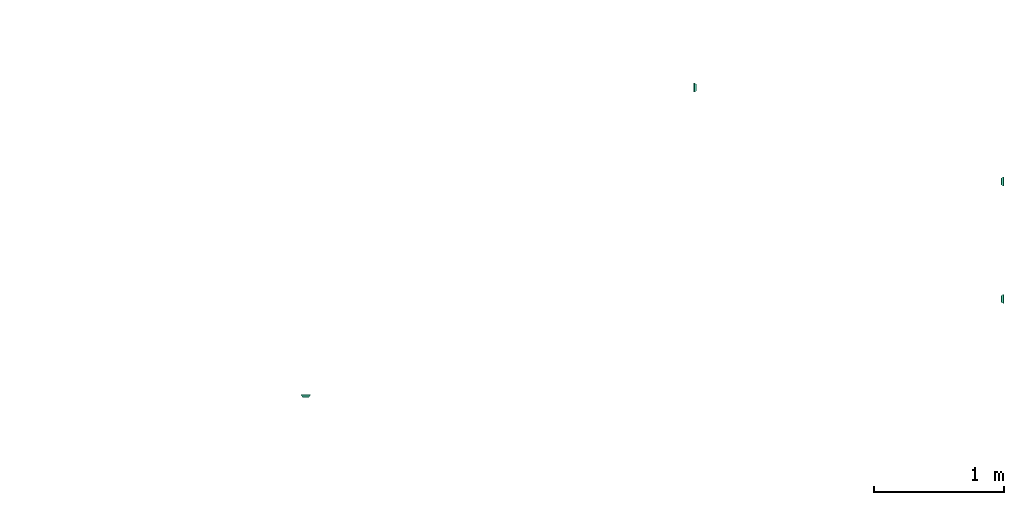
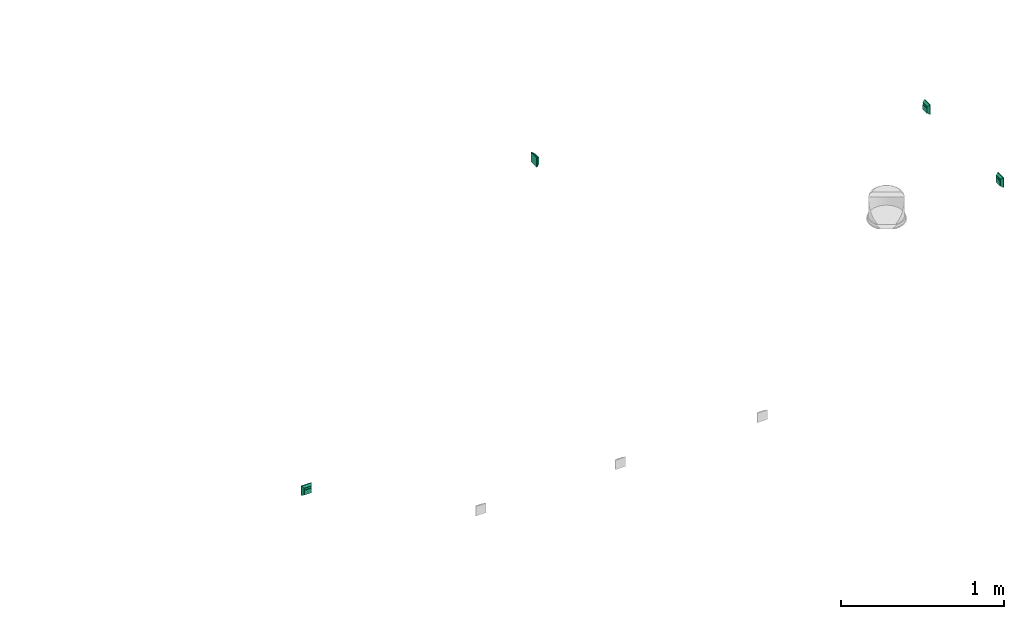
# One storey, part 3 of 5: 4 flow terminals.
"""IFC2X3 building model written with IfcOpenShell, lengths in millimetres."""

import ifcopenshell
import ifcopenshell.guid

model = None  # the IFC model being written
_history = None  # IfcOwnerHistory: only IFC2X3 demands one
_inside = {}  # id of a spatial element -> (the spatial element, [elements in it])
_under = {}  # id of a project, library or spatial element -> (it, [spatial elements below it])
_declared = {}  # id of a project -> (the project, [libraries it declares])
_typed = {}  # id of a type object -> (the type object, [elements of that type])
_made_of = {}  # id of a material, layer set ... -> (it, [elements and type objects made of it])


def new_model(schema):
    """Start an empty IFC model of exactly this schema.

    Asked for "IFC4X3", IfcOpenShell would pick the latest addendum, in which some entities
    have other attributes; the version numbers below select the first issue.
    IFC2X3 requires an IfcOwnerHistory on every rooted entity: one is made here for all.
    """
    global model, _history
    if schema == "IFC4X3":
        model = ifcopenshell.file(schema_version=(4, 3, 0, 0))
    else:
        model = ifcopenshell.file(schema=schema)
    _inside.clear()
    _under.clear()
    _declared.clear()
    _typed.clear()
    _made_of.clear()
    _history = None
    if model.schema == "IFC2X3":
        org = make("IfcOrganization", Name="unknown")
        user = make(
            "IfcPersonAndOrganization",
            ThePerson=make("IfcPerson", FamilyName="unknown"),
            TheOrganization=org,
        )
        app = make(
            "IfcApplication",
            ApplicationDeveloper=org,
            Version="unknown",
            ApplicationFullName="unknown",
            ApplicationIdentifier="unknown",
        )
        _history = make(
            "IfcOwnerHistory",
            OwningUser=user,
            OwningApplication=app,
            ChangeAction="ADDED",
            CreationDate=0,
        )
    return model


def make(cls, **values):
    """One entity of the class cls with the attributes given. An attribute that is None is left unset."""
    return model.create_entity(
        cls, **{name: value for name, value in values.items() if value is not None}
    )


def entity(cls, *values):
    """Any entity or typed value of the class cls, its attributes in the order of the schema. None: left unset."""
    e = model.create_entity(cls)
    for i, value in enumerate(values):
        if value is not None:
            e[i] = value
    return e


def rooted(cls, **values):
    """An entity with a GlobalId (a new one), such as an element, a storey or a relation."""
    return make(cls, GlobalId=ifcopenshell.guid.new(), OwnerHistory=_history, **values)


def si_unit(unit_type, name, prefix=None):
    """IfcSIUnit, for example si_unit("LENGTHUNIT", "METRE", prefix="MILLI")."""
    return make("IfcSIUnit", UnitType=unit_type, Prefix=prefix, Name=name)


def converted_unit(unit_type, name, factor, base, dimensions=None, offset=None):
    """IfcConversionBasedUnit, such as the inch: factor (a typed value) times the base unit."""
    return make(
        "IfcConversionBasedUnit"
        if offset is None
        else "IfcConversionBasedUnitWithOffset",
        ConversionOffset=offset,
        Dimensions=None
        if dimensions is None
        else entity("IfcDimensionalExponents", *dimensions),
        UnitType=unit_type,
        Name=name,
        ConversionFactor=make(
            "IfcMeasureWithUnit", ValueComponent=factor, UnitComponent=base
        ),
    )


def derived_unit(unit_type, elements):
    """IfcDerivedUnit: a product of units, each with its exponent."""
    return make(
        "IfcDerivedUnit",
        Elements=[
            make("IfcDerivedUnitElement", Unit=unit, Exponent=power)
            for unit, power in elements
        ],
        UnitType=unit_type,
    )


def assignment(units):
    """IfcUnitAssignment: the units of a project."""
    return None if units is None else make("IfcUnitAssignment", Units=units)


def point(xyz):
    """IfcCartesianPoint."""
    return None if xyz is None else make("IfcCartesianPoint", Coordinates=xyz)


def direction(xyz):
    """IfcDirection."""
    return None if xyz is None else make("IfcDirection", DirectionRatios=xyz)


def frame(location, z_axis=None, x_axis=None):
    """IfcAxis2Placement3D, a coordinate frame: its origin and axes. An axis left out is left unset."""
    return make(
        "IfcAxis2Placement3D",
        Location=point(location),
        Axis=direction(z_axis),
        RefDirection=direction(x_axis),
    )


def origin_with_axes():
    """The frame at (0, 0, 0) with the z axis (0, 0, 1) and the x axis (1, 0, 0) written out."""
    return frame((0.0, 0.0, 0.0), z_axis=(0.0, 0.0, 1.0), x_axis=(1.0, 0.0, 0.0))


def place(relative_to, where):
    """IfcLocalPlacement: puts the frame where relative to a parent placement (None: the world)."""
    return make(
        "IfcLocalPlacement", PlacementRelTo=relative_to, RelativePlacement=where
    )


def context(
    kind, dimensions, precision=None, world=None, true_north=None, identifier=None
):
    """IfcGeometricRepresentationContext, for example the 3D "Model" context."""
    return make(
        "IfcGeometricRepresentationContext",
        ContextIdentifier=identifier,
        ContextType=kind,
        CoordinateSpaceDimension=dimensions,
        Precision=precision,
        WorldCoordinateSystem=world,
        TrueNorth=true_north,
    )


def subcontext(parent, identifier, kind, view, scale=None):
    """IfcGeometricRepresentationSubContext, for example "Body" below "Model"."""
    return make(
        "IfcGeometricRepresentationSubContext",
        ContextIdentifier=identifier,
        ContextType=kind,
        ParentContext=parent,
        TargetScale=scale,
        TargetView=view,
    )


def project(units=None, contexts=None):
    """IfcProject with its units and contexts."""
    return rooted(
        "IfcProject",
        Name="project",
        RepresentationContexts=contexts,
        UnitsInContext=assignment(units),
    )


def spatial(cls, under=None, at=None, **own):
    """A site, building, storey or space (cls), placed at a placement, below another one or the project."""
    s = rooted(cls, ObjectPlacement=at, **own)
    if under is not None:
        _under.setdefault(under.id(), (under, []))[1].append(s)
    return s


def faces_of(points, faces, orient=None, outer=None):
    """IfcFace entities. A face is a list of loops; a loop is a list of indices into points, from 0.

    orient and outer hold one flag for each loop. By default every Orientation is true, the
    first loop of a face is its IfcFaceOuterBound and the others are IfcFaceBound.
    """
    made = []
    for i, loops in enumerate(faces):
        bounds = []
        for j, loop in enumerate(loops):
            is_outer = j == 0 if outer is None else outer[i][j]
            bounds.append(
                make(
                    "IfcFaceOuterBound" if is_outer else "IfcFaceBound",
                    Bound=make("IfcPolyLoop", Polygon=[points[k] for k in loop]),
                    Orientation=True if orient is None else orient[i][j],
                )
            )
        made.append(make("IfcFace", Bounds=bounds))
    return made


def open_shell(faces, orient=None, outer=None):
    """The faces of one IfcOpenShell. surface_model builds it on its shared points."""
    return ("IfcOpenShell", faces, orient, outer)


def surface_model(cls, points, shells):
    """IfcFaceBasedSurfaceModel or IfcShellBasedSurfaceModel (cls): surfaces that need not close."""
    shared = [point(p) for p in points]
    made = [make(c, CfsFaces=faces_of(shared, fs, o, b)) for c, fs, o, b in shells]
    if cls == "IfcFaceBasedSurfaceModel":
        return make(cls, FbsmFaces=made)
    return make(cls, SbsmBoundary=made)


def shape(context_of_items, identifier, shape_type, items):
    """IfcShapeRepresentation: the items that make up one representation, for example the "Body"."""
    return make(
        "IfcShapeRepresentation",
        ContextOfItems=context_of_items,
        RepresentationIdentifier=identifier,
        RepresentationType=shape_type,
        Items=items,
    )


def source(mapping_origin, context_of_items, identifier, shape_type, items):
    """IfcRepresentationMap: a shape defined once, which mapped items show again and again."""
    return make(
        "IfcRepresentationMap",
        MappingOrigin=mapping_origin,
        MappedRepresentation=shape(context_of_items, identifier, shape_type, items),
    )


def transform(
    local_origin,
    x_axis=None,
    y_axis=None,
    z_axis=None,
    scale=None,
    scale2=None,
    scale3=None,
    uniform=True,
):
    """IfcCartesianTransformationOperator3D, or its non-uniform kind. x_axis, y_axis, z_axis: its Axis1, 2, 3."""
    if uniform:
        return make(
            "IfcCartesianTransformationOperator3D",
            Axis1=direction(x_axis),
            Axis2=direction(y_axis),
            LocalOrigin=point(local_origin),
            Scale=scale,
            Axis3=direction(z_axis),
        )
    return make(
        "IfcCartesianTransformationOperator3DnonUniform",
        Axis1=direction(x_axis),
        Axis2=direction(y_axis),
        LocalOrigin=point(local_origin),
        Scale=scale,
        Axis3=direction(z_axis),
        Scale2=scale2,
        Scale3=scale3,
    )


def mapped(mapping_source, mapping_target):
    """IfcMappedItem: shows the shape of a source again, moved by a transform."""
    return make(
        "IfcMappedItem", MappingSource=mapping_source, MappingTarget=mapping_target
    )


def made_of(thing, what):
    """Note that an element or type object is made of a material, layer set ...; save() writes the relation."""
    if what is not None:
        _made_of.setdefault(what.id(), (what, []))[1].append(thing)
    return thing


def type_object(cls, material=None, **own):
    """A type object (cls), such as IfcWallType, which elements share."""
    return made_of(rooted(cls, **own), material)


def element(
    cls,
    number,
    at=None,
    inside=None,
    cuts=None,
    type_object=None,
    material=None,
    context=None,
    identifier="Body",
    shape_type=None,
    held_by="IfcProductDefinitionShape",
    body=None,
    shapes=None,
    **own,
):
    """One element of the class cls, such as IfcWall. Its Tag is "e" and its number.

    at: its placement. inside: the storey or other place that contains it. cuts: it is an
    opening in that element (IfcRelVoidsElement). A single representation is given by context,
    identifier, shape_type and body (its items); several are given by shapes. held_by: the class
    of the entity that holds the representations. save() writes the other relations.
    """
    e = rooted(cls, Tag="e%d" % number, ObjectPlacement=at, **own)
    if body is not None:
        shapes = [shape(context, identifier, shape_type, body)]
    if shapes is not None:
        e.Representation = make(held_by, Representations=shapes)
    if inside is not None:
        _inside.setdefault(inside.id(), (inside, []))[1].append(e)
    if cuts is not None:
        rooted(
            "IfcRelVoidsElement", RelatingBuildingElement=cuts, RelatedOpeningElement=e
        )
    if type_object is not None:
        _typed.setdefault(type_object.id(), (type_object, []))[1].append(e)
    return made_of(e, material)


def aggregate(whole, parts):
    """IfcRelAggregates: a whole, such as a stair, and the parts it consists of."""
    return rooted("IfcRelAggregates", RelatingObject=whole, RelatedObjects=parts)


def save(model, path):
    """Write the relations noted so far, then the file.

    IfcRelAggregates (storeys below a building ...), IfcRelContainedInSpatialStructure (elements
    in a storey), IfcRelDefinesByType, IfcRelAssociatesMaterial and IfcRelDeclares: one each for
    every whole, place, type object, material and project.
    """
    for whole, parts in _under.values():
        aggregate(whole, parts)
    for where, things in _inside.values():
        rooted(
            "IfcRelContainedInSpatialStructure",
            RelatedElements=things,
            RelatingStructure=where,
        )
    for kind, things in _typed.values():
        rooted("IfcRelDefinesByType", RelatedObjects=things, RelatingType=kind)
    for what, things in _made_of.values():
        rooted("IfcRelAssociatesMaterial", RelatedObjects=things, RelatingMaterial=what)
    for by, libraries in _declared.values():
        rooted("IfcRelDeclares", RelatingContext=by, RelatedDefinitions=libraries)
    model.write(path)


model = new_model("IFC2X3")

# Units and contexts
model_context = context("Model", 3, precision=0.01, world=frame((0.0, 4.29681676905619e-09, 0.0)), true_north=direction((4.01073788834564e-13, 1.0)))
plan_context = context("Plan", 3, precision=0.01, world=frame((0.0, 4.29681676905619e-09, 0.0)), true_north=direction((4.01073788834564e-13, 1.0)))
body_context = subcontext(model_context, "Body", "Model", "MODEL_VIEW")
ifc_project = project(units=[converted_unit("PLANEANGLEUNIT", "DEGREE", entity("IfcPositiveLengthMeasure", 0.0174532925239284), si_unit("PLANEANGLEUNIT", "RADIAN"), dimensions=[0, 0, 0, 0, 0, 0, 0]), si_unit("AREAUNIT", "SQUARE_METRE"), si_unit("LENGTHUNIT", "METRE", prefix="MILLI"), si_unit("MASSUNIT", "GRAM", prefix="KILO"), si_unit("POWERUNIT", "WATT"), si_unit("PRESSUREUNIT", "PASCAL"), si_unit("FORCEUNIT", "NEWTON", prefix="KILO"), si_unit("ELECTRICVOLTAGEUNIT", "VOLT"), si_unit("ELECTRICCURRENTUNIT", "AMPERE"), si_unit("THERMODYNAMICTEMPERATUREUNIT", "DEGREE_CELSIUS"), si_unit("TIMEUNIT", "SECOND"), si_unit("VOLUMEUNIT", "CUBIC_METRE"), derived_unit("LINEARVELOCITYUNIT", [(si_unit("LENGTHUNIT", "METRE"), 1), (si_unit("TIMEUNIT", "SECOND"), -1)]), derived_unit("VOLUMETRICFLOWRATEUNIT", [(si_unit("VOLUMEUNIT", "CUBIC_METRE"), 1), (si_unit("TIMEUNIT", "SECOND"), -1)]), derived_unit("THERMALTRANSMITTANCEUNIT", [(si_unit("POWERUNIT", "WATT"), 1), (si_unit("THERMODYNAMICTEMPERATUREUNIT", "KELVIN"), -1), (si_unit("AREAUNIT", "SQUARE_METRE"), -1)]), derived_unit("SOUNDPRESSUREUNIT", [(si_unit("PRESSUREUNIT", "PASCAL"), 1)])], contexts=[model_context, plan_context])

# Site, building, storey
site_placement = place(None, frame((0.0, -4.29681676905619e-09, 0.0), z_axis=(0.0, 0.0, 1.0), x_axis=(1.0, 0.0, 0.0)))
site = spatial("IfcSite", under=ifc_project, at=site_placement, Name="ENGM", CompositionType="ELEMENT")
building_placement = place(site_placement, frame((0.0, 4.29681676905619e-09, 0.0), z_axis=(0.0, 0.0, 1.0), x_axis=(1.0, 0.0, 0.0)))
building = spatial("IfcBuilding", under=site, at=building_placement, Name="TS", CompositionType="ELEMENT")
storey_placement = place(building_placement, frame((0.0, 0.0, 210900.0), z_axis=(0.0, 0.0, 1.0), x_axis=(1.0, 0.0, 0.0)))
storey = spatial("IfcBuildingStorey", under=building, at=storey_placement, Name="Nivå F", CompositionType="ELEMENT", Elevation=210900.0)

# Flow terminals
outlet_type_1 = type_object("IfcOutletType", Name="Datauttak dobbel Vegg - IKT", PredefinedType="COMMUNICATIONSOUTLET")
shared_shape_1 = source(origin_with_axes(), body_context, "Body", "SurfaceModel", [
    surface_model("IfcShellBasedSurfaceModel", [(35.5, 5.05547, 35.5832), (25.5, 20.05547, 25.5832), (-35.5, 5.05547, 35.5832), (-25.5, 20.05547, 25.5832), (-35.5, 4.94453, 35.41679), (-25.5, 19.94453, 25.41679), (25.5, 19.94453, 25.41679), (35.5, 4.94453, 35.41679), (35.5, 4.94453, -35.41679), (25.5, 19.94453, -25.41679), (-35.5, 4.94453, -35.41679), (-25.5, 19.94453, -25.41679), (-35.5, 5.05547, -35.5832), (-25.5, 20.05547, -25.5832), (25.5, 20.05547, -25.5832), (35.5, 5.05547, -35.5832), (-25.5832, 20.05547, -25.5), (-35.5832, 5.05547, -35.5), (-35.5832, 5.05547, 35.5), (-25.5832, 20.05547, 25.5), (-25.41679, 19.94453, 25.5), (-35.41679, 4.94453, 35.5), (-25.41679, 19.94453, -25.5), (-35.41679, 4.94453, -35.5), (25.41679, 19.94453, -25.5), (35.41679, 4.94453, -35.5), (35.41679, 4.94453, 35.5), (25.41679, 19.94453, 25.5), (25.5832, 20.05547, 25.5), (35.5832, 5.05547, 35.5), (25.5832, 20.05547, -25.5), (35.5832, 5.05547, -35.5), (35.4, 5.0, -35.5), (35.4, 0.0, -35.5), (35.4, 0.0, 35.5), (35.4, 5.0, 35.5), (35.6, 5.0, 35.5), (35.6, 0.0, 35.5), (35.6, 0.0, -35.5), (35.6, 5.0, -35.5), (-35.5, 0.0, -35.6), (-35.5, 5.0, -35.6), (35.5, 5.0, -35.6), (35.5, 0.0, -35.6), (35.5, 0.0, -35.4), (35.5, 5.0, -35.4), (-35.5, 5.0, -35.4), (-35.5, 0.0, -35.4), (-35.6, 5.0, -35.5), (-35.6, 0.0, -35.5), (-35.6, 0.0, 35.5), (-35.6, 5.0, 35.5), (-35.4, 5.0, 35.5), (-35.4, 0.0, 35.5), (-35.4, 0.0, -35.5), (-35.4, 5.0, -35.5), (-35.5, -0.1, -35.5), (35.5, -0.1, -35.5), (35.5, -0.1, 35.5), (-35.5, -0.1, 35.5), (-35.5, 0.1, 35.5), (35.5, 0.1, 35.5), (35.5, 0.1, -35.5), (-35.5, 0.1, -35.5), (-35.5, 0.0, 35.4), (-35.5, 5.0, 35.4), (35.5, 5.0, 35.4), (35.5, 0.0, 35.4), (35.5, 0.0, 35.6), (35.5, 5.0, 35.6), (-35.5, 5.0, 35.6), (-35.5, 0.0, 35.6), (-25.5, 19.9, -25.5), (25.5, 19.9, -25.5), (25.5, 19.9, 25.5), (-25.5, 19.9, 25.5), (-25.5, 20.1, 25.5), (25.5, 20.1, 25.5), (25.5, 20.1, -25.5), (-25.5, 20.1, -25.5), (-25.5, 22.0, 25.5), (-25.5, 20.0, 25.5), (25.5, 20.0, 25.5), (25.5, 22.0, 25.5), (25.5, 22.0, 20.5), (25.5, 20.0, 20.5), (-25.5, 20.0, 20.5), (-25.5, 22.0, 20.5), (-25.5, 22.0, 10.5), (-25.5, 20.0, 10.5), (25.5, 20.0, 10.5), (25.5, 22.0, 10.5), (25.5, 22.0, -25.5), (25.5, 20.0, -25.5), (-25.5, 20.0, -25.5), (-25.5, 22.0, -25.5), (-17.5, 21.91, -6.5), (-2.5, 21.91, -6.5), (-17.5, 21.91, 8.5), (-2.5, 21.91, 8.5), (-17.5, 22.11, 8.5), (-2.5, 22.11, 8.5), (-17.5, 22.11, -6.5), (-2.5, 22.11, -6.5), (2.5, 21.91, -6.5), (17.5, 21.91, -6.5), (17.5, 21.91, 8.5), (2.5, 21.91, 8.5), (2.5, 22.11, 8.5), (17.5, 22.11, 8.5), (2.5, 22.11, -6.5), (17.5, 22.11, -6.5)], [open_shell([[[0, 1, 2]], [[3, 2, 1]], [[4, 5, 6]], [[6, 7, 4]], [[3, 1, 6]], [[6, 5, 3]], [[2, 3, 4]], [[5, 4, 3]], [[0, 2, 7]], [[4, 7, 2]], [[1, 0, 6]], [[7, 6, 0]], [[8, 9, 10]], [[11, 10, 9]], [[12, 13, 14]], [[14, 15, 12]], [[11, 9, 14]], [[14, 13, 11]], [[10, 11, 12]], [[13, 12, 11]], [[8, 10, 12]], [[12, 15, 8]], [[9, 8, 14]], [[15, 14, 8]], [[16, 17, 18]], [[18, 19, 16]], [[20, 21, 22]], [[23, 22, 21]], [[18, 17, 23]], [[23, 21, 18]], [[19, 18, 20]], [[21, 20, 18]], [[16, 19, 20]], [[20, 22, 16]], [[17, 16, 22]], [[22, 23, 17]], [[24, 25, 26]], [[26, 27, 24]], [[28, 29, 30]], [[31, 30, 29]], [[26, 25, 31]], [[31, 29, 26]], [[27, 26, 28]], [[29, 28, 26]], [[24, 27, 28]], [[28, 30, 24]], [[25, 24, 30]], [[30, 31, 25]], [[32, 33, 34]], [[34, 35, 32]], [[36, 37, 38]], [[38, 39, 36]], [[34, 33, 38]], [[38, 37, 34]], [[35, 34, 37]], [[37, 36, 35]], [[32, 35, 36]], [[36, 39, 32]], [[33, 32, 39]], [[39, 38, 33]], [[40, 41, 42]], [[42, 43, 40]], [[44, 45, 46]], [[46, 47, 44]], [[42, 41, 46]], [[46, 45, 42]], [[43, 42, 45]], [[45, 44, 43]], [[40, 43, 44]], [[44, 47, 40]], [[41, 40, 47]], [[47, 46, 41]], [[48, 49, 50]], [[50, 51, 48]], [[52, 53, 54]], [[54, 55, 52]], [[50, 49, 54]], [[54, 53, 50]], [[51, 50, 53]], [[53, 52, 51]], [[48, 51, 52]], [[52, 55, 48]], [[49, 48, 55]], [[55, 54, 49]], [[56, 57, 58]], [[58, 59, 56]], [[60, 61, 62]], [[62, 63, 60]], [[58, 57, 62]], [[62, 61, 58]], [[59, 58, 61]], [[61, 60, 59]], [[56, 59, 60]], [[60, 63, 56]], [[57, 56, 63]], [[63, 62, 57]], [[64, 65, 66]], [[66, 67, 64]], [[68, 69, 70]], [[70, 71, 68]], [[66, 65, 70]], [[70, 69, 66]], [[67, 66, 69]], [[69, 68, 67]], [[64, 67, 68]], [[68, 71, 64]], [[65, 64, 71]], [[71, 70, 65]], [[72, 73, 74]], [[74, 75, 72]], [[76, 77, 78]], [[78, 79, 76]], [[74, 73, 78]], [[78, 77, 74]], [[75, 74, 77]], [[77, 76, 75]], [[72, 75, 76]], [[76, 79, 72]], [[73, 72, 79]], [[79, 78, 73]], [[80, 81, 82]], [[82, 83, 80]], [[84, 85, 86]], [[86, 87, 84]], [[82, 81, 86]], [[86, 85, 82]], [[83, 82, 85]], [[85, 84, 83]], [[80, 83, 84]], [[84, 87, 80]], [[81, 80, 87]], [[87, 86, 81]], [[88, 89, 90]], [[90, 91, 88]], [[92, 93, 94]], [[94, 95, 92]], [[90, 89, 94]], [[94, 93, 90]], [[91, 90, 93]], [[93, 92, 91]], [[88, 91, 92]], [[92, 95, 88]], [[89, 88, 95]], [[95, 94, 89]], [[96, 97, 98]], [[99, 98, 97]], [[100, 101, 102]], [[103, 102, 101]], [[99, 97, 103]], [[103, 101, 99]], [[98, 99, 101]], [[101, 100, 98]], [[96, 98, 100]], [[100, 102, 96]], [[97, 96, 102]], [[102, 103, 97]], [[104, 105, 106]], [[106, 107, 104]], [[108, 109, 110]], [[111, 110, 109]], [[106, 105, 111]], [[111, 109, 106]], [[107, 106, 109]], [[109, 108, 107]], [[104, 107, 108]], [[108, 110, 104]], [[105, 104, 110]], [[110, 111, 105]]])]),
])
for number, where, z_axis, x_axis, name in (
    (1, (536115.5, 445940.00039, 800.0), (0.0, 0.0, 1.0), (0.0, 1.0, 0.0), "Datauttak dobbel Vegg - IKT"),
    (2, (536115.5, 445040.00009, 800.0), (0.0, 0.0, 1.0), (0.0, 1.0, 0.0), "Datauttak dobbel Vegg - IKT"),
    (3, (530764.79879, 444307.5, 800.0), (0.0, 0.0, 1.0), (-1.0, 0.0, 0.0), "Datauttak dobbel Vegg - IKT"),
):
    element("IfcFlowTerminal", number, at=place(storey_placement, frame(where, z_axis=z_axis, x_axis=x_axis)), inside=storey, type_object=outlet_type_1, Name=name, context=body_context, shape_type="MappedRepresentation", body=[
        mapped(shared_shape_1, transform((0.0, 0.0, 0.0), scale=1.0)),
    ])
outlet_type_2 = type_object("IfcOutletType", Name="Datauttak enkelt Vegg - IKT", PredefinedType="COMMUNICATIONSOUTLET")
shared_shape_2 = source(origin_with_axes(), body_context, "Body", "SurfaceModel", [
    surface_model("IfcShellBasedSurfaceModel", [(35.5, 5.05547, 35.5832), (25.5, 20.05547, 25.5832), (-35.5, 5.05547, 35.5832), (-25.5, 20.05547, 25.5832), (-35.5, 4.94453, 35.41679), (-25.5, 19.94453, 25.41679), (25.5, 19.94453, 25.41679), (35.5, 4.94453, 35.41679), (35.5, 4.94453, -35.41679), (25.5, 19.94453, -25.41679), (-35.5, 4.94453, -35.41679), (-25.5, 19.94453, -25.41679), (-35.5, 5.05547, -35.5832), (-25.5, 20.05547, -25.5832), (25.5, 20.05547, -25.5832), (35.5, 5.05547, -35.5832), (-25.5832, 20.05547, -25.5), (-35.5832, 5.05547, -35.5), (-35.5832, 5.05547, 35.5), (-25.5832, 20.05547, 25.5), (-25.41679, 19.94453, 25.5), (-35.41679, 4.94453, 35.5), (-25.41679, 19.94453, -25.5), (-35.41679, 4.94453, -35.5), (25.41679, 19.94453, -25.5), (35.41679, 4.94453, -35.5), (35.41679, 4.94453, 35.5), (25.41679, 19.94453, 25.5), (25.5832, 20.05547, 25.5), (35.5832, 5.05547, 35.5), (25.5832, 20.05547, -25.5), (35.5832, 5.05547, -35.5), (35.4, 5.0, -35.5), (35.4, 0.0, -35.5), (35.4, 0.0, 35.5), (35.4, 5.0, 35.5), (35.6, 5.0, 35.5), (35.6, 0.0, 35.5), (35.6, 0.0, -35.5), (35.6, 5.0, -35.5), (-35.5, 0.0, -35.6), (-35.5, 5.0, -35.6), (35.5, 5.0, -35.6), (35.5, 0.0, -35.6), (35.5, 0.0, -35.4), (35.5, 5.0, -35.4), (-35.5, 5.0, -35.4), (-35.5, 0.0, -35.4), (-35.6, 5.0, -35.5), (-35.6, 0.0, -35.5), (-35.6, 0.0, 35.5), (-35.6, 5.0, 35.5), (-35.4, 5.0, 35.5), (-35.4, 0.0, 35.5), (-35.4, 0.0, -35.5), (-35.4, 5.0, -35.5), (-35.5, -0.1, -35.5), (35.5, -0.1, -35.5), (35.5, -0.1, 35.5), (-35.5, -0.1, 35.5), (-35.5, 0.1, 35.5), (35.5, 0.1, 35.5), (35.5, 0.1, -35.5), (-35.5, 0.1, -35.5), (-35.5, 0.0, 35.4), (-35.5, 5.0, 35.4), (35.5, 5.0, 35.4), (35.5, 0.0, 35.4), (35.5, 0.0, 35.6), (35.5, 5.0, 35.6), (-35.5, 5.0, 35.6), (-35.5, 0.0, 35.6), (-25.5, 19.9, -25.5), (25.5, 19.9, -25.5), (25.5, 19.9, 25.5), (-25.5, 19.9, 25.5), (-25.5, 20.1, 25.5), (25.5, 20.1, 25.5), (25.5, 20.1, -25.5), (-25.5, 20.1, -25.5), (-7.5, 21.91, -6.5), (7.5, 21.91, -6.5), (7.5, 21.91, 8.5), (-7.5, 21.91, 8.5), (-7.5, 22.11, 8.5), (7.5, 22.11, 8.5), (-7.5, 22.11, -6.5), (7.5, 22.11, -6.5), (-25.5, 22.0, 25.5), (-25.5, 20.0, 25.5), (25.5, 20.0, 25.5), (25.5, 22.0, 25.5), (25.5, 22.0, 20.5), (25.5, 20.0, 20.5), (-25.5, 20.0, 20.5), (-25.5, 22.0, 20.5), (-25.5, 22.0, 10.5), (-25.5, 20.0, 10.5), (25.5, 20.0, 10.5), (25.5, 22.0, 10.5), (25.5, 22.0, -25.5), (25.5, 20.0, -25.5), (-25.5, 20.0, -25.5), (-25.5, 22.0, -25.5)], [open_shell([[[0, 1, 2]], [[3, 2, 1]], [[4, 5, 6]], [[6, 7, 4]], [[3, 1, 6]], [[6, 5, 3]], [[2, 3, 4]], [[5, 4, 3]], [[0, 2, 7]], [[4, 7, 2]], [[1, 0, 6]], [[7, 6, 0]], [[8, 9, 10]], [[11, 10, 9]], [[12, 13, 14]], [[14, 15, 12]], [[11, 9, 14]], [[14, 13, 11]], [[10, 11, 12]], [[13, 12, 11]], [[8, 10, 12]], [[12, 15, 8]], [[9, 8, 14]], [[15, 14, 8]], [[16, 17, 18]], [[18, 19, 16]], [[20, 21, 22]], [[23, 22, 21]], [[18, 17, 23]], [[23, 21, 18]], [[19, 18, 20]], [[21, 20, 18]], [[16, 19, 20]], [[20, 22, 16]], [[17, 16, 22]], [[22, 23, 17]], [[24, 25, 26]], [[26, 27, 24]], [[28, 29, 30]], [[31, 30, 29]], [[26, 25, 31]], [[31, 29, 26]], [[27, 26, 28]], [[29, 28, 26]], [[24, 27, 28]], [[28, 30, 24]], [[25, 24, 30]], [[30, 31, 25]], [[32, 33, 34]], [[34, 35, 32]], [[36, 37, 38]], [[38, 39, 36]], [[34, 33, 38]], [[38, 37, 34]], [[35, 34, 37]], [[37, 36, 35]], [[32, 35, 36]], [[36, 39, 32]], [[33, 32, 39]], [[39, 38, 33]], [[40, 41, 42]], [[42, 43, 40]], [[44, 45, 46]], [[46, 47, 44]], [[42, 41, 46]], [[46, 45, 42]], [[43, 42, 45]], [[45, 44, 43]], [[40, 43, 44]], [[44, 47, 40]], [[41, 40, 47]], [[47, 46, 41]], [[48, 49, 50]], [[50, 51, 48]], [[52, 53, 54]], [[54, 55, 52]], [[50, 49, 54]], [[54, 53, 50]], [[51, 50, 53]], [[53, 52, 51]], [[48, 51, 52]], [[52, 55, 48]], [[49, 48, 55]], [[55, 54, 49]], [[56, 57, 58]], [[58, 59, 56]], [[60, 61, 62]], [[62, 63, 60]], [[58, 57, 62]], [[62, 61, 58]], [[59, 58, 61]], [[61, 60, 59]], [[56, 59, 60]], [[60, 63, 56]], [[57, 56, 63]], [[63, 62, 57]], [[64, 65, 66]], [[66, 67, 64]], [[68, 69, 70]], [[70, 71, 68]], [[66, 65, 70]], [[70, 69, 66]], [[67, 66, 69]], [[69, 68, 67]], [[64, 67, 68]], [[68, 71, 64]], [[65, 64, 71]], [[71, 70, 65]], [[72, 73, 74]], [[74, 75, 72]], [[76, 77, 78]], [[78, 79, 76]], [[74, 73, 78]], [[78, 77, 74]], [[75, 74, 77]], [[77, 76, 75]], [[72, 75, 76]], [[76, 79, 72]], [[73, 72, 79]], [[79, 78, 73]], [[80, 81, 82]], [[82, 83, 80]], [[84, 85, 86]], [[87, 86, 85]], [[82, 81, 87]], [[87, 85, 82]], [[83, 82, 85]], [[85, 84, 83]], [[80, 83, 84]], [[84, 86, 80]], [[81, 80, 86]], [[86, 87, 81]], [[88, 89, 90]], [[90, 91, 88]], [[92, 93, 94]], [[94, 95, 92]], [[90, 89, 94]], [[94, 93, 90]], [[91, 90, 93]], [[93, 92, 91]], [[88, 91, 92]], [[92, 95, 88]], [[89, 88, 95]], [[95, 94, 89]], [[96, 97, 98]], [[98, 99, 96]], [[100, 101, 102]], [[102, 103, 100]], [[98, 97, 102]], [[102, 101, 98]], [[99, 98, 101]], [[101, 100, 99]], [[96, 99, 100]], [[100, 103, 96]], [[97, 96, 103]], [[103, 102, 97]]])]),
])
flow_terminal_placement = place(storey_placement, frame((533737.5375, 446660.00039, 800.0), z_axis=(0.0, 0.0, 1.0), x_axis=(0.0, -1.0, 0.0)))
element("IfcFlowTerminal", 4, at=flow_terminal_placement, inside=storey, type_object=outlet_type_2, Name="Datauttak enkelt Vegg - IKT", context=body_context, shape_type="MappedRepresentation", body=[
    mapped(shared_shape_2, transform((0.0, 0.0, 0.0), scale=1.0)),
])

save(model, "model.ifc")
